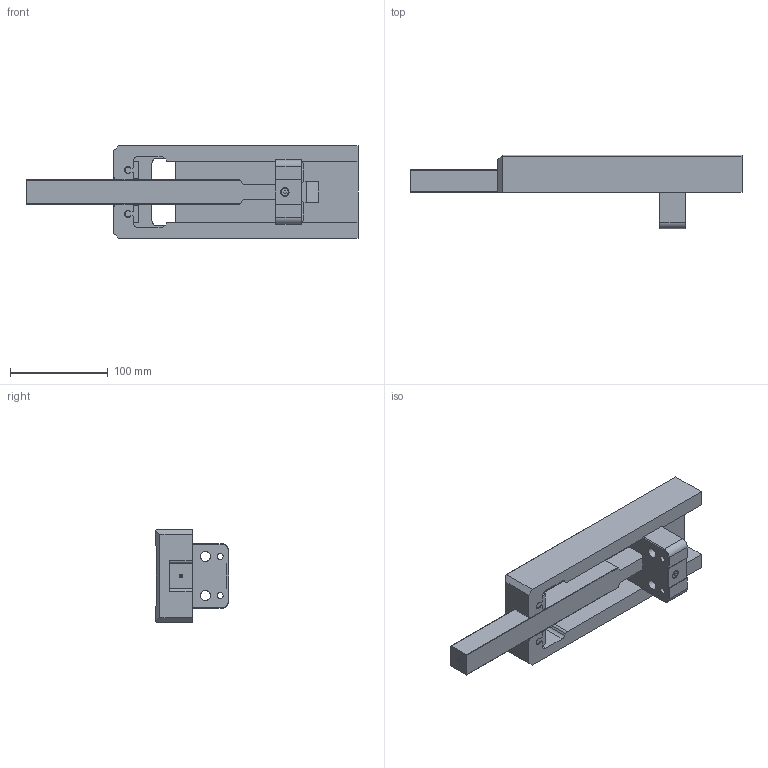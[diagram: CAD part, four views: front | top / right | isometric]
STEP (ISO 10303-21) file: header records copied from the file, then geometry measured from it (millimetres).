
FILE_DESCRIPTION (( 'STEP AP203' ), '1' );
FILE_NAME ('SA-140-250-30.step', '2015-06-16T06:27:09', ( '' ), ( '' ), 'SwSTEP 2.0', 'SolidWorks 2015', '' );
FILE_SCHEMA (( 'CONFIG_CONTROL_DESIGN' ));
Length unit declared in the file: millimetre
Products named in the file (2): SA-140-250-30
Bounding box: 340 x 75.6 x 95 mm (x, y, z)
Surface area: 128974.6 mm2 (no closed solid volume)
Topology: 0 solids, 9 shells, 142 faces, 495 edges, 354 vertices
Faces by surface type: plane 99, cylinder 35, cone 8
Full cylindrical faces by diameter (mm): 1.3 x2, 2.5 x1, 6 x2, 6.5 x2, 7.64 x1, 10.2 x2
Entity records: 5376 total; most frequent: CARTESIAN_POINT 1011, DIRECTION 853, ORIENTED_EDGE 806, EDGE_CURVE 479, VECTOR 369, LINE 369, VERTEX_POINT 352, AXIS2_PLACEMENT_3D 242
